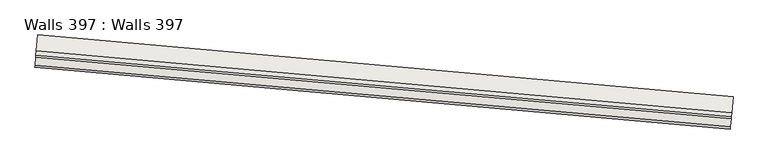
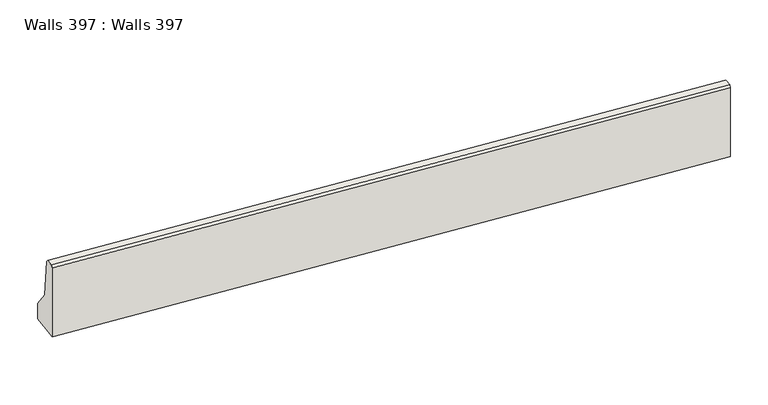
"""IFC4 building model written with IfcOpenShell, lengths in millimetres: wall geometry, Walls 397 : Walls 397."""

from ifc_helpers import new_model, si_unit, frame, origin, place, context, project, spatial, polyline, outline, extrude, source, transform, mapped, element, save


def walls_397_walls_397_7c0a0925(model_context):
    return source(origin(), model_context, "Body", "SweptSolid", [
        extrude(outline(polyline([(638180.0, 400.0), (638430.0, 200.0), (638935.0, 150.0000001), (638960.0, 125.0), (638960.0, 25.0), (638935.0, 0.0), (637960.0, 0.0), (637960.0, 400.0), (638180.0, 400.0)])), frame((-579047.8435626, -427493.84124, 0.0), z_axis=(-0.9960550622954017, 0.08873732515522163, 0.0), x_axis=(0.0, 0.0, 1.0)), (0.0, 0.0, 1.0), 8650.0000001),
    ])


if __name__ == "__main__":
    model = new_model("IFC4")
    model_context = context("Model", 3, world=origin())
    ifc_project = project(units=[si_unit("LENGTHUNIT", "METRE", prefix="MILLI")], contexts=[model_context])
    site = spatial("IfcSite", under=ifc_project)
    building = spatial("IfcBuilding", under=site)
    placement = place(None, origin())
    walls_397_walls_397_shape = walls_397_walls_397_7c0a0925(model_context)
    element("IfcWall", 1, ObjectType="Walls 397 : Walls 397", at=placement, inside=building, context=model_context, shape_type="MappedRepresentation", body=[
        mapped(walls_397_walls_397_shape, transform((0.0, 0.0, 0.0), x_axis=(1.0, 0.0, 0.0), y_axis=(0.0, 1.0, 0.0), z_axis=(0.0, 0.0, 1.0))),
    ])
    save(model, "model.ifc")
